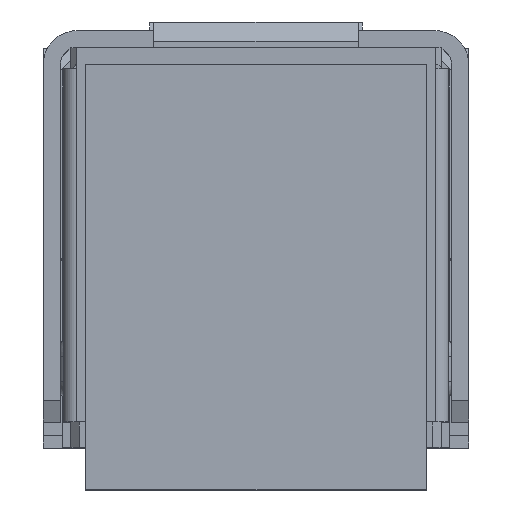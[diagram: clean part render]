
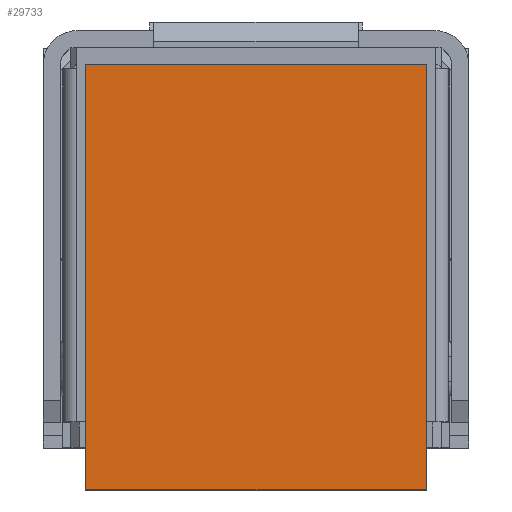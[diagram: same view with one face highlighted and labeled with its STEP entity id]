
A CAD part, top view. The second image highlights one B-rep face of the part: STEP entity #29733.
In plain terms, the highlighted planar face has unit normal (0, 0, 1).
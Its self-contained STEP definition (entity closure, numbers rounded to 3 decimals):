
#1787 = EDGE_CURVE ( 'NONE', #15108, #23322, #5078, .T. ) ;
#2060 = DIRECTION ( 'NONE',  ( 0., 1., 0. ) ) ;
#3629 = ORIENTED_EDGE ( 'NONE', *, *, #25985, .F. ) ;
#5078 = LINE ( 'NONE', #28281, #16961 ) ;
#5232 = CARTESIAN_POINT ( 'NONE',  ( 4., 4., 13.2 ) ) ;
#5836 = VECTOR ( 'NONE', #13344, 1000. ) ;
#5863 = VECTOR ( 'NONE', #36807, 1000. ) ;
#6283 = EDGE_CURVE ( 'NONE', #23322, #34448, #22825, .T. ) ;
#6409 = ORIENTED_EDGE ( 'NONE', *, *, #1787, .F. ) ;
#10848 = VERTEX_POINT ( 'NONE', #15147 ) ;
#10890 = LINE ( 'NONE', #5232, #5836 ) ;
#11424 = DIRECTION ( 'NONE',  ( 1., 0., 0. ) ) ;
#11461 = CARTESIAN_POINT ( 'NONE',  ( 4., -6., 13.2 ) ) ;
#13344 = DIRECTION ( 'NONE',  ( 0., -1., 0. ) ) ;
#13761 = CARTESIAN_POINT ( 'NONE',  ( -4., 4., 13.2 ) ) ;
#14237 = PLANE ( 'NONE',  #18023 ) ;
#15108 = VERTEX_POINT ( 'NONE', #28017 ) ;
#15147 = CARTESIAN_POINT ( 'NONE',  ( 4., -6., 13.2 ) ) ;
#16961 = VECTOR ( 'NONE', #2060, 1000. ) ;
#18023 = AXIS2_PLACEMENT_3D ( 'NONE', #25749, #37287, #11424 ) ;
#20502 = LINE ( 'NONE', #11461, #26215 ) ;
#22822 = CARTESIAN_POINT ( 'NONE',  ( 4., 4., 13.2 ) ) ;
#22825 = LINE ( 'NONE', #34547, #5863 ) ;
#23322 = VERTEX_POINT ( 'NONE', #13761 ) ;
#23834 = EDGE_CURVE ( 'NONE', #10848, #15108, #20502, .T. ) ;
#25327 = EDGE_LOOP ( 'NONE', ( #31111, #3629, #32671, #6409 ) ) ;
#25749 = CARTESIAN_POINT ( 'NONE',  ( 0., -1., 13.2 ) ) ;
#25985 = EDGE_CURVE ( 'NONE', #34448, #10848, #10890, .T. ) ;
#26215 = VECTOR ( 'NONE', #32048, 1000. ) ;
#28017 = CARTESIAN_POINT ( 'NONE',  ( -4., -6., 13.2 ) ) ;
#28281 = CARTESIAN_POINT ( 'NONE',  ( -4., -6., 13.2 ) ) ;
#29359 = FACE_OUTER_BOUND ( 'NONE', #25327, .T. ) ;
#29733 = ADVANCED_FACE ( 'NONE', ( #29359 ), #14237, .T. ) ;
#31111 = ORIENTED_EDGE ( 'NONE', *, *, #23834, .F. ) ;
#32048 = DIRECTION ( 'NONE',  ( -1., 0., 0. ) ) ;
#32671 = ORIENTED_EDGE ( 'NONE', *, *, #6283, .F. ) ;
#34448 = VERTEX_POINT ( 'NONE', #22822 ) ;
#34547 = CARTESIAN_POINT ( 'NONE',  ( -4., 4., 13.2 ) ) ;
#36807 = DIRECTION ( 'NONE',  ( 1., 0., 0. ) ) ;
#37287 = DIRECTION ( 'NONE',  ( 0., 0., 1. ) ) ;
